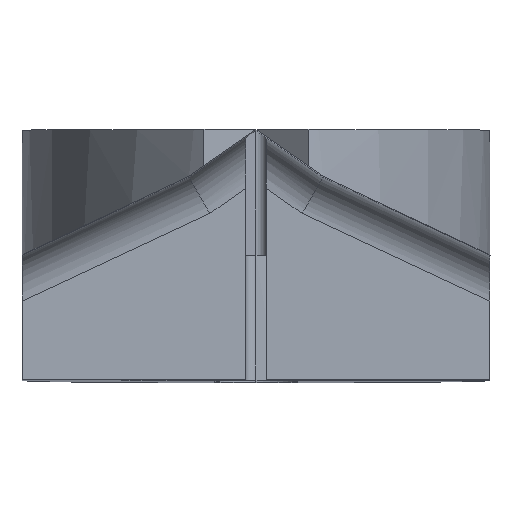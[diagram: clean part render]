
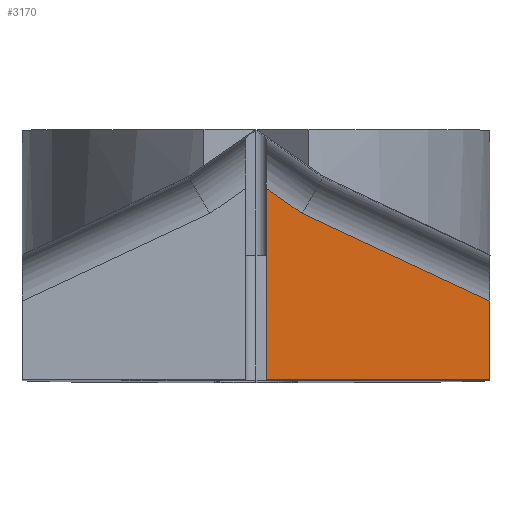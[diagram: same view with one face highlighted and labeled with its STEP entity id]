
A CAD part, top view. The second image highlights one B-rep face of the part: STEP entity #3170.
In plain terms, the highlighted planar face has unit normal (0, 0, 1).
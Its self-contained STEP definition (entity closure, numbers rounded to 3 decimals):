
#2 = CARTESIAN_POINT ( 'NONE',  ( 5.875, 0., 15. ) ) ;
#404 = EDGE_CURVE ( 'NONE', #2332, #2464, #917, .T. ) ;
#649 = CARTESIAN_POINT ( 'NONE',  ( 0.5, 0., 15. ) ) ;
#880 = PLANE ( 'NONE',  #1664 ) ;
#917 = LINE ( 'NONE', #2266, #2841 ) ;
#920 = ORIENTED_EDGE ( 'NONE', *, *, #404, .F. ) ;
#1047 = VECTOR ( 'NONE', #2005, 1000. ) ;
#1065 = CARTESIAN_POINT ( 'NONE',  ( 11.25, 3.793, 15. ) ) ;
#1092 = VERTEX_POINT ( 'NONE', #3009 ) ;
#1109 = VECTOR ( 'NONE', #1693, 1000. ) ;
#1205 = CARTESIAN_POINT ( 'NONE',  ( 0.5, 9.208, 15. ) ) ;
#1217 = ORIENTED_EDGE ( 'NONE', *, *, #2601, .F. ) ;
#1250 = ORIENTED_EDGE ( 'NONE', *, *, #2731, .T. ) ;
#1360 = EDGE_CURVE ( 'NONE', #1794, #2464, #1767, .T. ) ;
#1367 = DIRECTION ( 'NONE',  ( 1., 0., 0. ) ) ;
#1381 = CARTESIAN_POINT ( 'NONE',  ( 2.22, 8.004, 15. ) ) ;
#1494 = CARTESIAN_POINT ( 'NONE',  ( 11.25, 6., 15. ) ) ;
#1555 = DIRECTION ( 'NONE',  ( -0.906, 0.423, 0. ) ) ;
#1568 = LINE ( 'NONE', #1494, #2147 ) ;
#1664 = AXIS2_PLACEMENT_3D ( 'NONE', #2630, #2878, #1367 ) ;
#1693 = DIRECTION ( 'NONE',  ( -0.819, 0.574, 0. ) ) ;
#1767 = LINE ( 'NONE', #1381, #1109 ) ;
#1794 = VERTEX_POINT ( 'NONE', #2787 ) ;
#2005 = DIRECTION ( 'NONE',  ( -1., 0., 0. ) ) ;
#2047 = FACE_OUTER_BOUND ( 'NONE', #2320, .T. ) ;
#2050 = VECTOR ( 'NONE', #1555, 1000. ) ;
#2101 = ORIENTED_EDGE ( 'NONE', *, *, #2300, .F. ) ;
#2117 = LINE ( 'NONE', #1065, #2050 ) ;
#2146 = CARTESIAN_POINT ( 'NONE',  ( 11.25, 0., 15. ) ) ;
#2147 = VECTOR ( 'NONE', #2991, 1000. ) ;
#2208 = DIRECTION ( 'NONE',  ( 0., 1., 0. ) ) ;
#2266 = CARTESIAN_POINT ( 'NONE',  ( 0.5, 6., 15. ) ) ;
#2300 = EDGE_CURVE ( 'NONE', #1092, #2929, #1568, .T. ) ;
#2320 = EDGE_LOOP ( 'NONE', ( #2403, #920, #1217, #2101, #1250 ) ) ;
#2332 = VERTEX_POINT ( 'NONE', #649 ) ;
#2403 = ORIENTED_EDGE ( 'NONE', *, *, #1360, .T. ) ;
#2464 = VERTEX_POINT ( 'NONE', #1205 ) ;
#2559 = LINE ( 'NONE', #2, #1047 ) ;
#2601 = EDGE_CURVE ( 'NONE', #2929, #2332, #2559, .T. ) ;
#2630 = CARTESIAN_POINT ( 'NONE',  ( 0.5, 0., 15. ) ) ;
#2731 = EDGE_CURVE ( 'NONE', #1092, #1794, #2117, .T. ) ;
#2787 = CARTESIAN_POINT ( 'NONE',  ( 2.22, 8.004, 15. ) ) ;
#2841 = VECTOR ( 'NONE', #2208, 1000. ) ;
#2878 = DIRECTION ( 'NONE',  ( 0., 0., 1. ) ) ;
#2929 = VERTEX_POINT ( 'NONE', #2146 ) ;
#2991 = DIRECTION ( 'NONE',  ( 0., -1., 0. ) ) ;
#3009 = CARTESIAN_POINT ( 'NONE',  ( 11.25, 3.793, 15. ) ) ;
#3170 = ADVANCED_FACE ( 'NONE', ( #2047 ), #880, .T. ) ;
